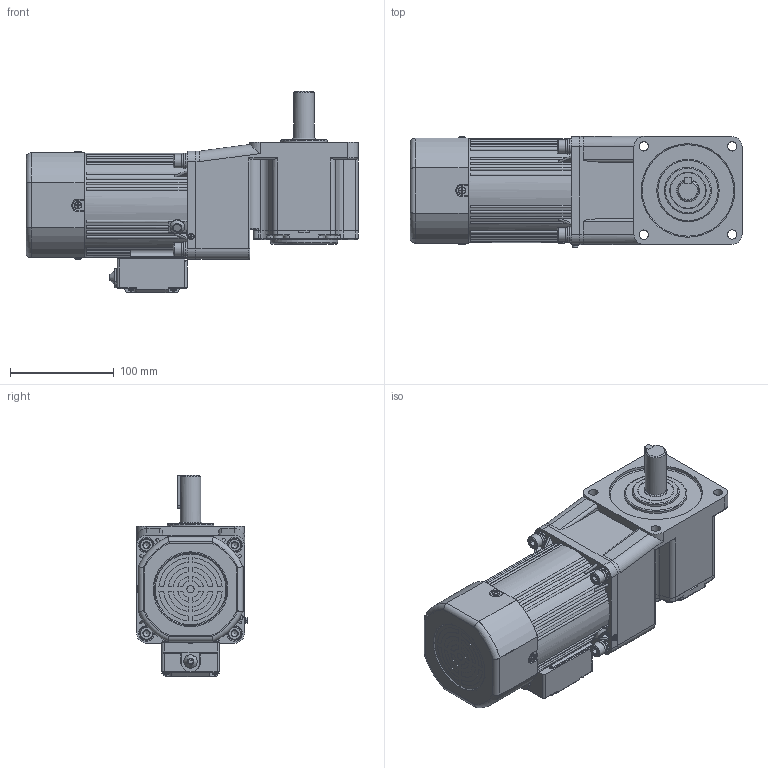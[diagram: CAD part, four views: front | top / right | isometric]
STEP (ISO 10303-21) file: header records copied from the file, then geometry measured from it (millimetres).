
FILE_DESCRIPTION(/* description */ (''),/* implementation_level */ '2;1');
FILE_NAME(/* name */ '100+直角中实-刹车风叶-120-140W 新版长款接线盒.stp',/* time_stamp */ '2025-04-07T19:53:40+08:00',/* author */ (''),/* organization */ (''),/* preprocessor_version */ 'ST-DEVELOPER v18.102',/* originating_system */ 'SIEMENS PLM Software NX 2027',/* authorisation */ '');
FILE_SCHEMA (('AP203_CONFIGURATION_CONTROLLED_3D_DESIGN_OF_MECHANICAL_PARTS_AND_ASSEMBLIES_MIM_LF { 1 0 10303 403 2 1 2}'));
Products named in the file (1): 100+直角中实-刹车风叶-120
-140W 新版_stp_objects
Bounding box: 319.5 x 106.83 x 193.5 mm (x, y, z)
Volume: 3131244.1 mm3; surface area: 429257.7 mm2
Topology: 26 solids, 26 shells, 2373 faces, 6159 edges, 3950 vertices
Faces by surface type: plane 1077, cylinder 768, bspline 221, torus 150, cone 113, sphere 44
Full cylindrical faces by diameter (mm): 2.2 x2, 2.6 x2, 2.7 x1, 2.9 x4, 3 x3, 3.2 x2, 3.3 x4, 3.5 x6, 3.6 x4, 4 x4, 4.2 x1, 4.55 x2, 4.8 x1, 5.1 x2, 5.15 x2, 5.6 x4, 6 x12, 6.8 x12, 7 x3, 7.5 x2, 7.76 x4, 8 x1, 8.4 x4, 9 x13, 9.3 x1, 9.5 x4, 10 x2, 13 x4, 14 x8, 15 x5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
Entity records: 73863 total; most frequent: CARTESIAN_POINT 18188, ORIENTED_EDGE 11402, DIRECTION 11118, EDGE_CURVE 5701, AXIS2_PLACEMENT_3D 4265, VERTEX_POINT 3809, EDGE_LOOP 2903, LINE 2588
